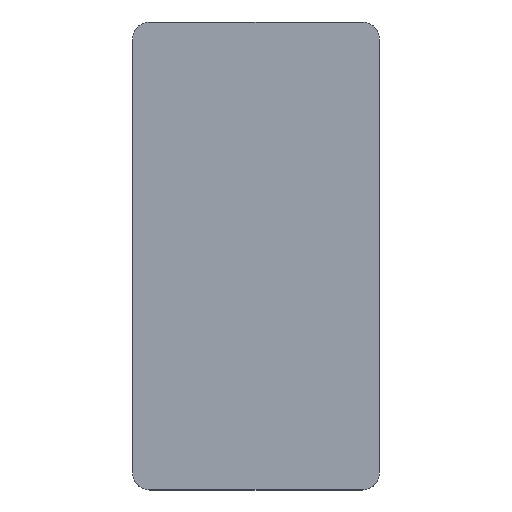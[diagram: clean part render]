
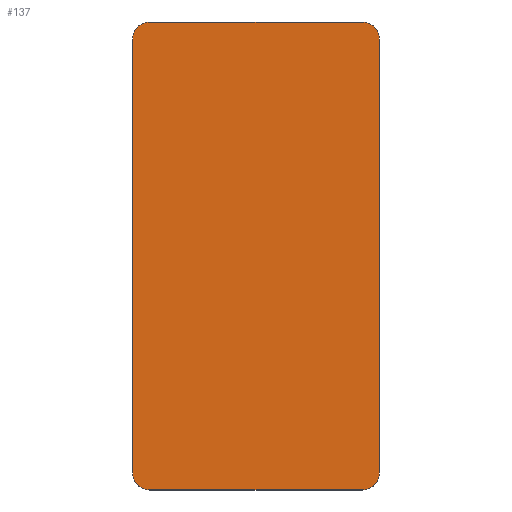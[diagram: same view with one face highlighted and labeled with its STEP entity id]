
A CAD part, top view. The second image highlights one B-rep face of the part: STEP entity #137.
In plain terms, the highlighted planar face has unit normal (0, 0, 1).
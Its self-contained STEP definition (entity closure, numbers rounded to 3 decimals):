
#21 = EDGE_CURVE('',#22,#24,#26,.T.);
#22 = VERTEX_POINT('',#23);
#23 = CARTESIAN_POINT('',(14.,33.75,-16.6));
#24 = VERTEX_POINT('',#25);
#25 = CARTESIAN_POINT('',(14.,59.25,-16.6));
#26 = SURFACE_CURVE('',#27,(#31,#43),.PCURVE_S1.);
#27 = LINE('',#28,#29);
#28 = CARTESIAN_POINT('',(14.,32.75,-16.6));
#29 = VECTOR('',#30,1.);
#30 = DIRECTION('',(-0.,1.,0.));
#31 = PCURVE('',#32,#37);
#32 = PLANE('',#33);
#33 = AXIS2_PLACEMENT_3D('',#34,#35,#36);
#34 = CARTESIAN_POINT('',(14.,32.75,-17.3));
#35 = DIRECTION('',(1.,0.,-0.));
#36 = DIRECTION('',(0.,0.,1.));
#37 = DEFINITIONAL_REPRESENTATION('',(#38),#42);
#38 = LINE('',#39,#40);
#39 = CARTESIAN_POINT('',(0.7,0.));
#40 = VECTOR('',#41,1.);
#41 = DIRECTION('',(0.,-1.));
#42 = ( GEOMETRIC_REPRESENTATION_CONTEXT(2) 
PARAMETRIC_REPRESENTATION_CONTEXT() REPRESENTATION_CONTEXT('2D SPACE',''
  ) );
#43 = PCURVE('',#44,#49);
#44 = PLANE('',#45);
#45 = AXIS2_PLACEMENT_3D('',#46,#47,#48);
#46 = CARTESIAN_POINT('',(14.,32.75,-16.6));
#47 = DIRECTION('',(0.,0.,1.));
#48 = DIRECTION('',(1.,0.,-0.));
#49 = DEFINITIONAL_REPRESENTATION('',(#50),#54);
#50 = LINE('',#51,#52);
#51 = CARTESIAN_POINT('',(0.,0.));
#52 = VECTOR('',#53,1.);
#53 = DIRECTION('',(0.,1.));
#54 = ( GEOMETRIC_REPRESENTATION_CONTEXT(2) 
PARAMETRIC_REPRESENTATION_CONTEXT() REPRESENTATION_CONTEXT('2D SPACE',''
  ) );
#72 = CYLINDRICAL_SURFACE('',#73,1.);
#73 = AXIS2_PLACEMENT_3D('',#74,#75,#76);
#74 = CARTESIAN_POINT('',(15.,33.75,-17.3));
#75 = DIRECTION('',(0.,0.,1.));
#76 = DIRECTION('',(-1.,-0.,0.));
#126 = CYLINDRICAL_SURFACE('',#127,1.);
#127 = AXIS2_PLACEMENT_3D('',#128,#129,#130);
#128 = CARTESIAN_POINT('',(15.,59.25,-17.3));
#129 = DIRECTION('',(0.,0.,1.));
#130 = DIRECTION('',(-1.,-0.,0.));
#137 = ADVANCED_FACE('',(#138),#44,.T.);
#138 = FACE_BOUND('',#139,.T.);
#139 = EDGE_LOOP('',(#140,#141,#165,#193,#226,#254,#283,#311));
#140 = ORIENTED_EDGE('',*,*,#21,.F.);
#141 = ORIENTED_EDGE('',*,*,#142,.T.);
#142 = EDGE_CURVE('',#22,#143,#145,.T.);
#143 = VERTEX_POINT('',#144);
#144 = CARTESIAN_POINT('',(15.,32.75,-16.6));
#145 = SURFACE_CURVE('',#146,(#151,#158),.PCURVE_S1.);
#146 = CIRCLE('',#147,1.);
#147 = AXIS2_PLACEMENT_3D('',#148,#149,#150);
#148 = CARTESIAN_POINT('',(15.,33.75,-16.6));
#149 = DIRECTION('',(0.,0.,1.));
#150 = DIRECTION('',(0.,-1.,0.));
#151 = PCURVE('',#44,#152);
#152 = DEFINITIONAL_REPRESENTATION('',(#153),#157);
#153 = CIRCLE('',#154,1.);
#154 = AXIS2_PLACEMENT_2D('',#155,#156);
#155 = CARTESIAN_POINT('',(1.,1.));
#156 = DIRECTION('',(0.,-1.));
#157 = ( GEOMETRIC_REPRESENTATION_CONTEXT(2) 
PARAMETRIC_REPRESENTATION_CONTEXT() REPRESENTATION_CONTEXT('2D SPACE',''
  ) );
#158 = PCURVE('',#72,#159);
#159 = DEFINITIONAL_REPRESENTATION('',(#160),#164);
#160 = LINE('',#161,#162);
#161 = CARTESIAN_POINT('',(-4.712,0.7));
#162 = VECTOR('',#163,1.);
#163 = DIRECTION('',(1.,0.));
#164 = ( GEOMETRIC_REPRESENTATION_CONTEXT(2) 
PARAMETRIC_REPRESENTATION_CONTEXT() REPRESENTATION_CONTEXT('2D SPACE',''
  ) );
#165 = ORIENTED_EDGE('',*,*,#166,.T.);
#166 = EDGE_CURVE('',#143,#167,#169,.T.);
#167 = VERTEX_POINT('',#168);
#168 = CARTESIAN_POINT('',(27.5,32.75,-16.6));
#169 = SURFACE_CURVE('',#170,(#174,#181),.PCURVE_S1.);
#170 = LINE('',#171,#172);
#171 = CARTESIAN_POINT('',(14.,32.75,-16.6));
#172 = VECTOR('',#173,1.);
#173 = DIRECTION('',(1.,0.,-0.));
#174 = PCURVE('',#44,#175);
#175 = DEFINITIONAL_REPRESENTATION('',(#176),#180);
#176 = LINE('',#177,#178);
#177 = CARTESIAN_POINT('',(0.,0.));
#178 = VECTOR('',#179,1.);
#179 = DIRECTION('',(1.,0.));
#180 = ( GEOMETRIC_REPRESENTATION_CONTEXT(2) 
PARAMETRIC_REPRESENTATION_CONTEXT() REPRESENTATION_CONTEXT('2D SPACE',''
  ) );
#181 = PCURVE('',#182,#187);
#182 = PLANE('',#183);
#183 = AXIS2_PLACEMENT_3D('',#184,#185,#186);
#184 = CARTESIAN_POINT('',(14.,32.75,-17.3));
#185 = DIRECTION('',(-0.,1.,0.));
#186 = DIRECTION('',(0.,0.,1.));
#187 = DEFINITIONAL_REPRESENTATION('',(#188),#192);
#188 = LINE('',#189,#190);
#189 = CARTESIAN_POINT('',(0.7,0.));
#190 = VECTOR('',#191,1.);
#191 = DIRECTION('',(0.,1.));
#192 = ( GEOMETRIC_REPRESENTATION_CONTEXT(2) 
PARAMETRIC_REPRESENTATION_CONTEXT() REPRESENTATION_CONTEXT('2D SPACE',''
  ) );
#193 = ORIENTED_EDGE('',*,*,#194,.F.);
#194 = EDGE_CURVE('',#195,#167,#197,.T.);
#195 = VERTEX_POINT('',#196);
#196 = CARTESIAN_POINT('',(28.5,33.75,-16.6));
#197 = SURFACE_CURVE('',#198,(#203,#214),.PCURVE_S1.);
#198 = CIRCLE('',#199,1.);
#199 = AXIS2_PLACEMENT_3D('',#200,#201,#202);
#200 = CARTESIAN_POINT('',(27.5,33.75,-16.6));
#201 = DIRECTION('',(-0.,-0.,-1.));
#202 = DIRECTION('',(0.,-1.,0.));
#203 = PCURVE('',#44,#204);
#204 = DEFINITIONAL_REPRESENTATION('',(#205),#213);
#205 = ( BOUNDED_CURVE() B_SPLINE_CURVE(2,(#206,#207,#208,#209,#210,#211
,#212),.UNSPECIFIED.,.T.,.F.) B_SPLINE_CURVE_WITH_KNOTS((1,2,2,2,2,1),(
    -2.094,0.,2.094,4.189,6.283,
8.378),.UNSPECIFIED.) CURVE() GEOMETRIC_REPRESENTATION_ITEM() 
RATIONAL_B_SPLINE_CURVE((1.,0.5,1.,0.5,1.,0.5,1.)) REPRESENTATION_ITEM(
  '') );
#206 = CARTESIAN_POINT('',(13.5,0.));
#207 = CARTESIAN_POINT('',(11.768,0.));
#208 = CARTESIAN_POINT('',(12.634,1.5));
#209 = CARTESIAN_POINT('',(13.5,3.));
#210 = CARTESIAN_POINT('',(14.366,1.5));
#211 = CARTESIAN_POINT('',(15.232,0.));
#212 = CARTESIAN_POINT('',(13.5,0.));
#213 = ( GEOMETRIC_REPRESENTATION_CONTEXT(2) 
PARAMETRIC_REPRESENTATION_CONTEXT() REPRESENTATION_CONTEXT('2D SPACE',''
  ) );
#214 = PCURVE('',#215,#220);
#215 = CYLINDRICAL_SURFACE('',#216,1.);
#216 = AXIS2_PLACEMENT_3D('',#217,#218,#219);
#217 = CARTESIAN_POINT('',(27.5,33.75,-17.3));
#218 = DIRECTION('',(0.,0.,1.));
#219 = DIRECTION('',(1.,0.,-0.));
#220 = DEFINITIONAL_REPRESENTATION('',(#221),#225);
#221 = LINE('',#222,#223);
#222 = CARTESIAN_POINT('',(4.712,0.7));
#223 = VECTOR('',#224,1.);
#224 = DIRECTION('',(-1.,0.));
#225 = ( GEOMETRIC_REPRESENTATION_CONTEXT(2) 
PARAMETRIC_REPRESENTATION_CONTEXT() REPRESENTATION_CONTEXT('2D SPACE',''
  ) );
#226 = ORIENTED_EDGE('',*,*,#227,.T.);
#227 = EDGE_CURVE('',#195,#228,#230,.T.);
#228 = VERTEX_POINT('',#229);
#229 = CARTESIAN_POINT('',(28.5,59.25,-16.6));
#230 = SURFACE_CURVE('',#231,(#235,#242),.PCURVE_S1.);
#231 = LINE('',#232,#233);
#232 = CARTESIAN_POINT('',(28.5,32.75,-16.6));
#233 = VECTOR('',#234,1.);
#234 = DIRECTION('',(-0.,1.,0.));
#235 = PCURVE('',#44,#236);
#236 = DEFINITIONAL_REPRESENTATION('',(#237),#241);
#237 = LINE('',#238,#239);
#238 = CARTESIAN_POINT('',(14.5,0.));
#239 = VECTOR('',#240,1.);
#240 = DIRECTION('',(0.,1.));
#241 = ( GEOMETRIC_REPRESENTATION_CONTEXT(2) 
PARAMETRIC_REPRESENTATION_CONTEXT() REPRESENTATION_CONTEXT('2D SPACE',''
  ) );
#242 = PCURVE('',#243,#248);
#243 = PLANE('',#244);
#244 = AXIS2_PLACEMENT_3D('',#245,#246,#247);
#245 = CARTESIAN_POINT('',(28.5,32.75,-17.3));
#246 = DIRECTION('',(1.,0.,-0.));
#247 = DIRECTION('',(0.,0.,1.));
#248 = DEFINITIONAL_REPRESENTATION('',(#249),#253);
#249 = LINE('',#250,#251);
#250 = CARTESIAN_POINT('',(0.7,0.));
#251 = VECTOR('',#252,1.);
#252 = DIRECTION('',(0.,-1.));
#253 = ( GEOMETRIC_REPRESENTATION_CONTEXT(2) 
PARAMETRIC_REPRESENTATION_CONTEXT() REPRESENTATION_CONTEXT('2D SPACE',''
  ) );
#254 = ORIENTED_EDGE('',*,*,#255,.T.);
#255 = EDGE_CURVE('',#228,#256,#258,.T.);
#256 = VERTEX_POINT('',#257);
#257 = CARTESIAN_POINT('',(27.5,60.25,-16.6));
#258 = SURFACE_CURVE('',#259,(#264,#271),.PCURVE_S1.);
#259 = CIRCLE('',#260,1.);
#260 = AXIS2_PLACEMENT_3D('',#261,#262,#263);
#261 = CARTESIAN_POINT('',(27.5,59.25,-16.6));
#262 = DIRECTION('',(0.,0.,1.));
#263 = DIRECTION('',(0.,-1.,0.));
#264 = PCURVE('',#44,#265);
#265 = DEFINITIONAL_REPRESENTATION('',(#266),#270);
#266 = CIRCLE('',#267,1.);
#267 = AXIS2_PLACEMENT_2D('',#268,#269);
#268 = CARTESIAN_POINT('',(13.5,26.5));
#269 = DIRECTION('',(0.,-1.));
#270 = ( GEOMETRIC_REPRESENTATION_CONTEXT(2) 
PARAMETRIC_REPRESENTATION_CONTEXT() REPRESENTATION_CONTEXT('2D SPACE',''
  ) );
#271 = PCURVE('',#272,#277);
#272 = CYLINDRICAL_SURFACE('',#273,1.);
#273 = AXIS2_PLACEMENT_3D('',#274,#275,#276);
#274 = CARTESIAN_POINT('',(27.5,59.25,-17.3));
#275 = DIRECTION('',(0.,0.,1.));
#276 = DIRECTION('',(1.,0.,-0.));
#277 = DEFINITIONAL_REPRESENTATION('',(#278),#282);
#278 = LINE('',#279,#280);
#279 = CARTESIAN_POINT('',(-1.571,0.7));
#280 = VECTOR('',#281,1.);
#281 = DIRECTION('',(1.,0.));
#282 = ( GEOMETRIC_REPRESENTATION_CONTEXT(2) 
PARAMETRIC_REPRESENTATION_CONTEXT() REPRESENTATION_CONTEXT('2D SPACE',''
  ) );
#283 = ORIENTED_EDGE('',*,*,#284,.F.);
#284 = EDGE_CURVE('',#285,#256,#287,.T.);
#285 = VERTEX_POINT('',#286);
#286 = CARTESIAN_POINT('',(15.,60.25,-16.6));
#287 = SURFACE_CURVE('',#288,(#292,#299),.PCURVE_S1.);
#288 = LINE('',#289,#290);
#289 = CARTESIAN_POINT('',(14.,60.25,-16.6));
#290 = VECTOR('',#291,1.);
#291 = DIRECTION('',(1.,0.,-0.));
#292 = PCURVE('',#44,#293);
#293 = DEFINITIONAL_REPRESENTATION('',(#294),#298);
#294 = LINE('',#295,#296);
#295 = CARTESIAN_POINT('',(0.,27.5));
#296 = VECTOR('',#297,1.);
#297 = DIRECTION('',(1.,0.));
#298 = ( GEOMETRIC_REPRESENTATION_CONTEXT(2) 
PARAMETRIC_REPRESENTATION_CONTEXT() REPRESENTATION_CONTEXT('2D SPACE',''
  ) );
#299 = PCURVE('',#300,#305);
#300 = PLANE('',#301);
#301 = AXIS2_PLACEMENT_3D('',#302,#303,#304);
#302 = CARTESIAN_POINT('',(14.,60.25,-17.3));
#303 = DIRECTION('',(-0.,1.,0.));
#304 = DIRECTION('',(0.,0.,1.));
#305 = DEFINITIONAL_REPRESENTATION('',(#306),#310);
#306 = LINE('',#307,#308);
#307 = CARTESIAN_POINT('',(0.7,0.));
#308 = VECTOR('',#309,1.);
#309 = DIRECTION('',(0.,1.));
#310 = ( GEOMETRIC_REPRESENTATION_CONTEXT(2) 
PARAMETRIC_REPRESENTATION_CONTEXT() REPRESENTATION_CONTEXT('2D SPACE',''
  ) );
#311 = ORIENTED_EDGE('',*,*,#312,.F.);
#312 = EDGE_CURVE('',#24,#285,#313,.T.);
#313 = SURFACE_CURVE('',#314,(#319,#330),.PCURVE_S1.);
#314 = CIRCLE('',#315,1.);
#315 = AXIS2_PLACEMENT_3D('',#316,#317,#318);
#316 = CARTESIAN_POINT('',(15.,59.25,-16.6));
#317 = DIRECTION('',(-0.,-0.,-1.));
#318 = DIRECTION('',(0.,-1.,0.));
#319 = PCURVE('',#44,#320);
#320 = DEFINITIONAL_REPRESENTATION('',(#321),#329);
#321 = ( BOUNDED_CURVE() B_SPLINE_CURVE(2,(#322,#323,#324,#325,#326,#327
,#328),.UNSPECIFIED.,.T.,.F.) B_SPLINE_CURVE_WITH_KNOTS((1,2,2,2,2,1),(
    -2.094,0.,2.094,4.189,6.283,
8.378),.UNSPECIFIED.) CURVE() GEOMETRIC_REPRESENTATION_ITEM() 
RATIONAL_B_SPLINE_CURVE((1.,0.5,1.,0.5,1.,0.5,1.)) REPRESENTATION_ITEM(
  '') );
#322 = CARTESIAN_POINT('',(1.,25.5));
#323 = CARTESIAN_POINT('',(-0.732,25.5));
#324 = CARTESIAN_POINT('',(0.134,27.));
#325 = CARTESIAN_POINT('',(1.,28.5));
#326 = CARTESIAN_POINT('',(1.866,27.));
#327 = CARTESIAN_POINT('',(2.732,25.5));
#328 = CARTESIAN_POINT('',(1.,25.5));
#329 = ( GEOMETRIC_REPRESENTATION_CONTEXT(2) 
PARAMETRIC_REPRESENTATION_CONTEXT() REPRESENTATION_CONTEXT('2D SPACE',''
  ) );
#330 = PCURVE('',#126,#331);
#331 = DEFINITIONAL_REPRESENTATION('',(#332),#336);
#332 = LINE('',#333,#334);
#333 = CARTESIAN_POINT('',(1.571,0.7));
#334 = VECTOR('',#335,1.);
#335 = DIRECTION('',(-1.,0.));
#336 = ( GEOMETRIC_REPRESENTATION_CONTEXT(2) 
PARAMETRIC_REPRESENTATION_CONTEXT() REPRESENTATION_CONTEXT('2D SPACE',''
  ) );
